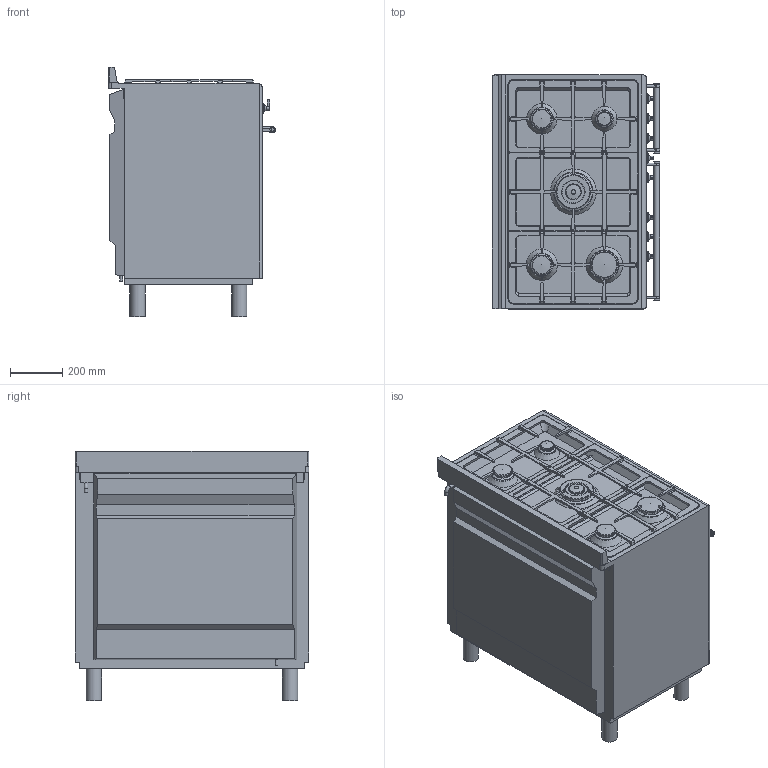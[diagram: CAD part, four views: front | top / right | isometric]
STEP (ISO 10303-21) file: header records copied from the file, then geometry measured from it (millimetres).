
FILE_DESCRIPTION(/* description */ ('Unknown'),/* implementation_level */ '2;1');
FILE_NAME(/* name */ 'CX92GM',/* time_stamp */ '2025-04-23T15:49:26+02:00',/* author */ ('Unknown'),/* organization */ ('Unknown'),/* preprocessor_version */ 'ST-DEVELOPER v16.7',/* originating_system */ 'DEX',/* authorisation */ $);
FILE_SCHEMA (('AUTOMOTIVE_DESIGN {1 0 10303 214 3 1 1}'));
Length unit declared in the file: millimetre
Products named in the file (1): CX92GM
Bounding box: 642.53 x 898 x 956.86 mm (x, y, z)
Volume: 367572793.4 mm3; surface area: 5453073 mm2
Topology: 5 solids, 5 shells, 806 faces, 2256 edges, 1520 vertices
Faces by surface type: plane 381, cylinder 300, bspline 68, cone 35, torus 19, sphere 3
Full cylindrical faces by diameter (mm): 4.608 x6, 8 x8, 8.5 x8, 10 x1, 13 x4, 13.5 x4, 14 x2, 14.995 x8, 22 x6, 55 x1, 59 x4, 60.611 x1, 65.5 x1, 75 x2, 85.5 x2, 85.7 x1, 100 x1, 110.5 x1, 131 x1, 147 x1
Entity records: 31995 total; most frequent: CARTESIAN_POINT 8914, ORIENTED_EDGE 4122, DIRECTION 3978, EDGE_CURVE 2061, AXIS2_PLACEMENT_3D 1448, VERTEX_POINT 1443, LINE 1082, VECTOR 1082
